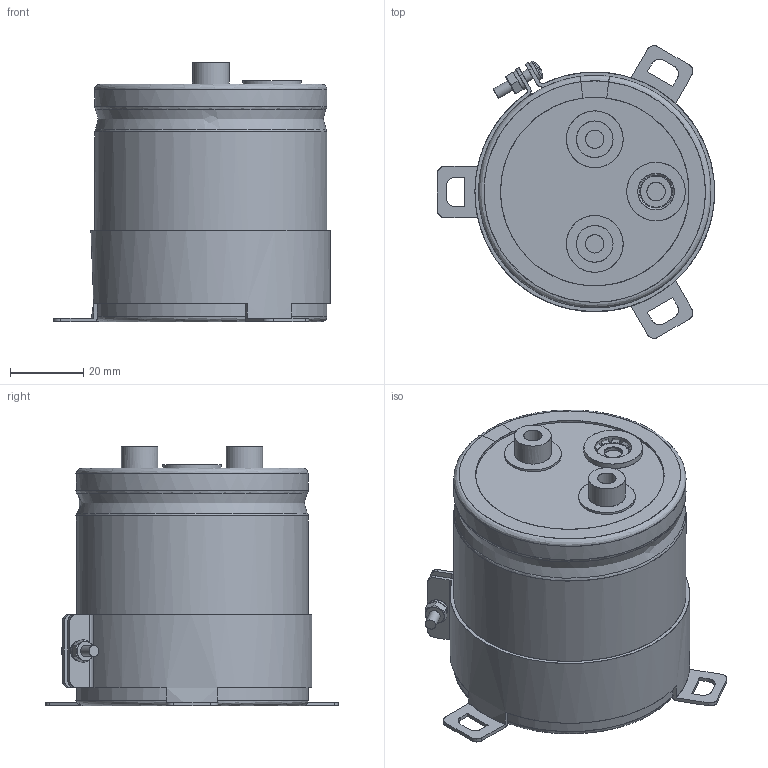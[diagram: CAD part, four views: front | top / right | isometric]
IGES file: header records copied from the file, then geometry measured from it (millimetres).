
Start section: JAMA-IS VERSION  1.0
Bounding box: 75.75 x 80.01 x 71 mm (x, y, z)
Surface area: 60185.5 mm2 (no closed solid volume)
Topology: 0 solids, 0 shells, 259 faces, 4436 edges, 4409 vertices
Faces by surface type: bspline 259
